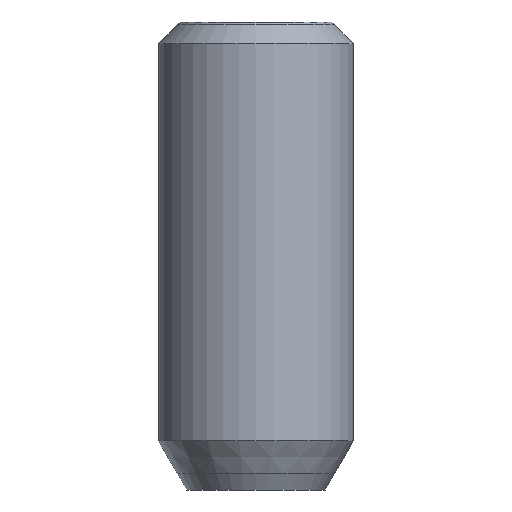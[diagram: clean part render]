
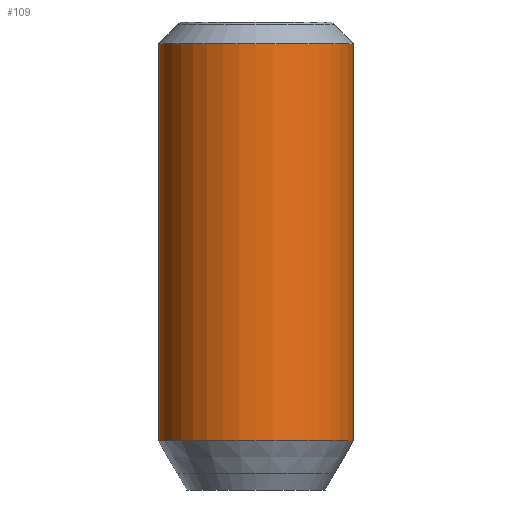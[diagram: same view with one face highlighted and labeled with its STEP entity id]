
A CAD part, left-side view. The second image highlights one B-rep face of the part: STEP entity #109.
In plain terms, the highlighted cylindrical face has radius 1.25 mm (diameter 2.5 mm), a partial arc.
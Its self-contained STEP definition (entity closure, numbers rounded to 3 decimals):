
#62=CYLINDRICAL_SURFACE('',#556,1.25);
#109=ADVANCED_FACE('',(#141),#62,.T.);
#141=FACE_OUTER_BOUND('',#174,.F.);
#174=EDGE_LOOP('',(#284,#285,#286,#287));
#284=ORIENTED_EDGE('',*,*,#437,.F.);
#285=ORIENTED_EDGE('',*,*,#446,.T.);
#286=ORIENTED_EDGE('',*,*,#436,.T.);
#287=ORIENTED_EDGE('',*,*,#447,.F.);
#332=LINE('',#894,#356);
#333=LINE('',#895,#357);
#356=VECTOR('',#663,5.094);
#357=VECTOR('',#664,5.094);
#386=CIRCLE('',#552,1.25);
#387=CIRCLE('',#553,1.25);
#436=EDGE_CURVE('',#502,#501,#332,.T.);
#437=EDGE_CURVE('',#500,#499,#333,.T.);
#446=EDGE_CURVE('',#500,#502,#386,.T.);
#447=EDGE_CURVE('',#499,#501,#387,.T.);
#499=VERTEX_POINT('',#890);
#500=VERTEX_POINT('',#891);
#501=VERTEX_POINT('',#892);
#502=VERTEX_POINT('',#893);
#552=AXIS2_PLACEMENT_3D('',#904,#679,#680);
#553=AXIS2_PLACEMENT_3D('',#905,#681,#682);
#556=AXIS2_PLACEMENT_3D('',#912,#691,#692);
#663=DIRECTION('',(0.,0.,1.));
#664=DIRECTION('',(0.,0.,1.));
#679=DIRECTION('',(0.,0.,-1.));
#680=DIRECTION('',(0.,-1.,0.));
#681=DIRECTION('',(0.,0.,-1.));
#682=DIRECTION('',(0.,-1.,0.));
#691=DIRECTION('',(0.,0.,-1.));
#692=DIRECTION('',(0.,-1.,0.));
#890=CARTESIAN_POINT('',(220.7,-12.613,-12.209));
#891=CARTESIAN_POINT('',(220.7,-12.613,-17.303));
#892=CARTESIAN_POINT('',(220.7,-10.113,-12.209));
#893=CARTESIAN_POINT('',(220.7,-10.113,-17.303));
#894=CARTESIAN_POINT('',(220.7,-10.113,-17.303));
#895=CARTESIAN_POINT('',(220.7,-12.613,-17.303));
#904=CARTESIAN_POINT('',(220.7,-11.363,-17.303));
#905=CARTESIAN_POINT('',(220.7,-11.363,-12.209));
#912=CARTESIAN_POINT('',(220.7,-11.363,-19.433));
